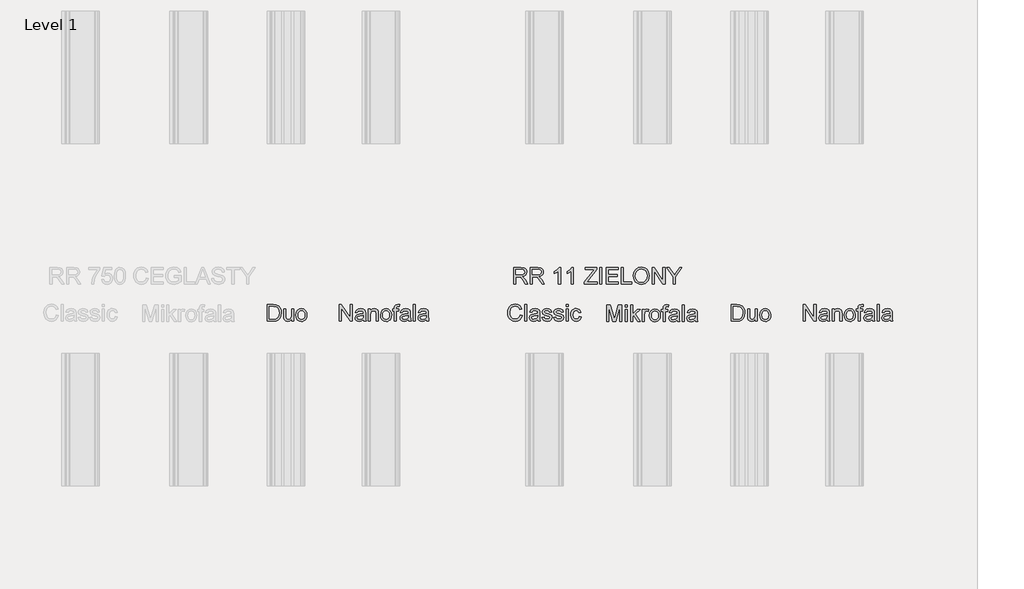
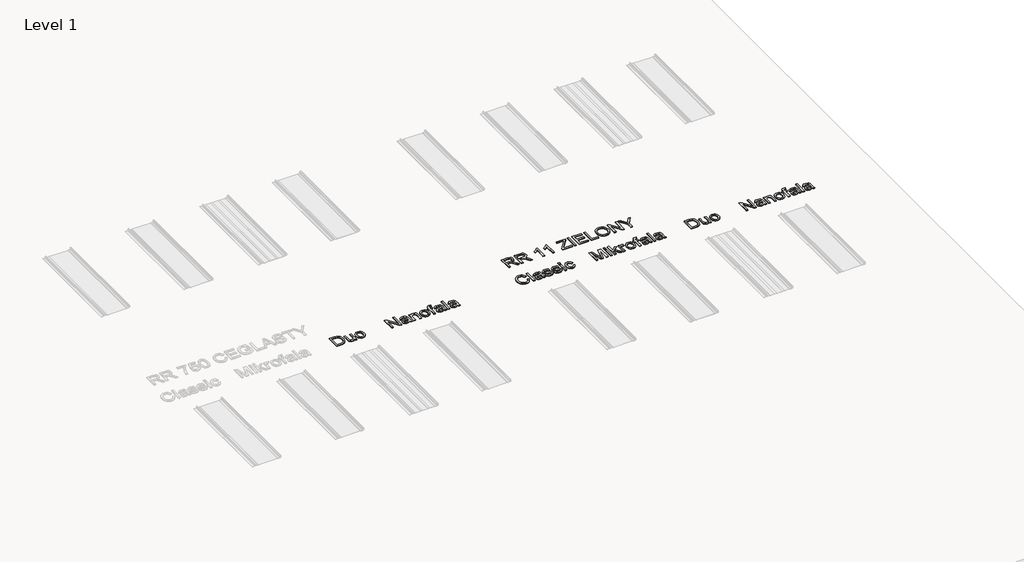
# One storey, part 16 of 24: 7 proxies.
"""IFC4 building model written with IfcOpenShell, lengths in millimetres."""

from ifc_helpers import new_model, si_unit, frame, origin, place, context, project, spatial, polyline, outline, extrude, element, save

model = new_model("IFC4")

# Units and contexts
model_context = context("Model", 3, world=origin())
ifc_project = project(units=[si_unit("LENGTHUNIT", "METRE", prefix="MILLI")], contexts=[model_context])

# Site, building, storey
site = spatial("IfcSite", under=ifc_project)
building = spatial("IfcBuilding", under=site)
storey = spatial("IfcBuildingStorey", under=building, Name="Level 1", Elevation=0.0)

# Proxies
placement = place(None, origin())
element("IfcBuildingElementProxy", 1, Name="150", ObjectType="150", at=placement, inside=storey, context=model_context, shape_type="SweptSolid", body=[
    extrude(outline(polyline([(1632.4192925, -5072.1592468), (1632.4192925, -4921.4747816), (1684.4010184, -4921.4747816), (1711.2931923, -4923.6452853), (1733.4396884, -4934.4242278), (1743.8599459, -4945.902146), (1751.2819651, -4960.1759675), (1755.7241402, -4976.9697805), (1757.2048653, -4996.0076738), (1753.1949515, -5026.4131207), (1742.8942557, -5048.3572817), (1729.135469, -5062.0240978), (1711.1276454, -5069.5840728), (1686.902616, -5072.1592468), (1632.4192925, -5072.1592468)]), holes=[polyline([(1651.2548507, -5053.3236886), (1684.5849594, -5053.3236886), (1708.8283829, -5050.6013619), (1722.8078987, -5042.9126282), (1734.2674229, -5024.2058287), (1738.3693071, -4995.7133682), (1736.3597517, -4975.1855529), (1730.3310855, -4960.0288147), (1721.4237427, -4949.6177542), (1710.7781575, -4943.3269721), (1684.0699246, -4940.3103397), (1651.2548507, -4940.3103397), (1651.2548507, -5053.3236886)])]), frame((0.0, 0.0, 600.0), z_axis=(0.0, 0.0, 1.0), x_axis=(1.0, 0.0, 0.0)), (0.0, 0.0, 1.0), 10.0),
    extrude(outline(polyline([(1851.382656, -5072.1592468), (1851.382656, -5053.1397476), (1836.630588, -5069.1702056), (1817.3903597, -5074.5136916), (1799.6768416, -5070.7612952), (1787.4631594, -5061.3435161), (1781.8529589, -5047.4743649), (1780.749313, -5029.9631819), (1780.749313, -4961.5003426), (1799.5848711, -4961.5003426), (1799.5848711, -5021.0972259), (1800.7253053, -5040.300666), (1808.1749157, -5051.5762492), (1822.2096138, -5055.6781334), (1837.9365691, -5051.4842787), (1848.3292355, -5040.0615427), (1851.382656, -5019.0738749), (1851.382656, -4961.5003426), (1870.2182142, -4961.5003426), (1870.2182142, -5072.1592468), (1851.382656, -5072.1592468)])), frame((0.0, 0.0, 600.0), z_axis=(0.0, 0.0, 1.0), x_axis=(1.0, 0.0, 0.0)), (0.0, 0.0, 1.0), 10.0),
    extrude(outline(polyline([(1891.4082171, -5016.8297947), (1895.4825102, -4990.149153), (1907.7053895, -4971.3963683), (1922.8069454, -4962.2085155), (1940.8883455, -4959.1458979), (1960.6757983, -4962.8753016), (1976.4809285, -4974.0635128), (1986.8414052, -4991.8276146), (1990.2948974, -5015.2846903), (1988.7681871, -5034.3133865), (1984.1880563, -5048.7987401), (1976.6878621, -5059.6466604), (1966.4009618, -5067.7630569), (1954.1826811, -5072.8260329), (1940.8883455, -5074.5136916), (1920.8617693, -5070.7980834), (1905.0750332, -5059.651259), (1894.8249211, -5041.5146766), (1891.4082171, -5016.8297947)]), holes=[polyline([(1910.2437753, -5016.7930065), (1912.4234761, -5033.8397385), (1918.9625785, -5045.9844428), (1928.8034219, -5053.2547108), (1940.8883455, -5055.6781334), (1952.9180867, -5053.2409152), (1962.740536, -5045.9292605), (1969.2796384, -5033.6236078), (1971.4593393, -5016.2043953), (1969.2658429, -4999.6543041), (1962.6853537, -4987.6751466), (1952.8491088, -4980.4048787), (1940.8883455, -4977.981456), (1928.8034219, -4980.3956816), (1918.9625785, -4987.6383584), (1912.4234761, -4999.7554716), (1910.2437753, -5016.7930065)])]), frame((0.0, 0.0, 600.0), z_axis=(0.0, 0.0, 1.0), x_axis=(1.0, 0.0, 0.0)), (0.0, 0.0, 1.0), 10.0),
])
element("IfcBuildingElementProxy", 2, Name="150", ObjectType="150", at=placement, inside=storey, context=model_context, shape_type="SweptSolid", body=[
    extrude(outline(polyline([(3920.9914008, -5017.1818641), (3939.8269589, -5022.0379064), (3931.1357468, -5043.986666), (3917.4965218, -5060.0217224), (3899.5806686, -5069.8303761), (3878.0595719, -5073.0999274), (3856.2119799, -5070.6259209), (3838.8617453, -5063.2039017), (3825.5628112, -5051.091387), (3815.8691206, -5034.5458943), (3809.950819, -5015.0941338), (3807.9780518, -4994.2628158), (3810.2083364, -4972.2910636), (3816.8991902, -4953.3175497), (3827.7011253, -4937.9446809), (3842.2646538, -4926.7748638), (3859.5367135, -4919.9736454), (3878.4642421, -4917.7065726), (3899.1162176, -4920.6404315), (3916.1905407, -4929.4420082), (3929.1537825, -4943.5686769), (3937.4725141, -4962.4778114), (3918.636956, -4966.9659718), (3912.1070506, -4953.2301778), (3903.1859122, -4943.8078002), (3891.7631762, -4938.3585481), (3877.7284781, -4936.5421308), (3861.5508674, -4938.5562847), (3848.2611303, -4944.5987464), (3838.1765651, -4954.0349196), (3831.61447, -4966.2302078), (3826.81361, -4994.2260276), (3828.2345542, -5011.626846), (3832.4973868, -5026.6732196), (3839.7630562, -5038.7903328), (3850.1925108, -5047.40337), (3862.6959001, -5052.5491194), (3876.1833737, -5054.2643692), (3891.9057305, -5051.9283185), (3905.0069281, -5044.9201665), (3914.8983552, -5033.3134896), (3920.9914008, -5017.1818641)])), frame((0.0, 0.0, 600.0), z_axis=(0.0, 0.0, 1.0), x_axis=(1.0, 0.0, 0.0)), (0.0, 0.0, 1.0), 10.0),
    extrude(outline(polyline([(3963.3714066, -5070.7454826), (3963.3714066, -4920.0610174), (3982.2069648, -4920.0610174), (3982.2069648, -5070.7454826), (3963.3714066, -5070.7454826)])), frame((0.0, 0.0, 600.0), z_axis=(0.0, 0.0, 1.0), x_axis=(1.0, 0.0, 0.0)), (0.0, 0.0, 1.0), 10.0),
    extrude(outline(polyline([(4081.0936451, -5056.618814), (4062.828304, -5069.3843192), (4042.6499766, -5073.0999274), (4026.9092257, -5070.8650442), (4015.2979502, -5064.1603949), (4008.1380469, -5053.9792607), (4005.7514125, -5041.314923), (4009.356656, -5026.4157022), (4018.8296174, -5015.5999715), (4032.0181869, -5009.419554), (4048.3153593, -5006.5868626), (4080.9832805, -5000.1121395), (4081.0936451, -4995.9182848), (4079.796861, -4987.5121812), (4075.9065089, -4982.0123454), (4067.2060997, -4977.9288552), (4055.084388, -4976.5676918), (4036.0281007, -4980.1913295), (4026.9414154, -4993.0488052), (4008.1058572, -4990.6943604), (4016.2544434, -4972.3002607), (4032.6619804, -4961.5213182), (4057.5124092, -4957.7321337), (4080.339487, -4961.0798598), (4093.2337509, -4969.4859634), (4099.0094982, -4982.2698628), (4099.9292032, -4998.7509761), (4099.9292032, -5022.1850592), (4100.8856964, -5054.9081627), (4104.6380928, -5070.7454826), (4085.8025346, -5070.7454826), (4081.0936451, -5056.618814)]), holes=[polyline([(4081.0936451, -5018.9476977), (4050.7065923, -5024.723445), (4034.5013904, -5027.7768656), (4027.1621446, -5032.7432725), (4024.5869706, -5039.9905478), (4030.197171, -5050.1808791), (4046.6598903, -5054.2643692), (4065.7161777, -5049.7578148), (4078.0034363, -5038.8501136), (4080.9832805, -5024.2819866), (4081.0936451, -5018.9476977)])]), frame((0.0, 0.0, 600.0), z_axis=(0.0, 0.0, 1.0), x_axis=(1.0, 0.0, 0.0)), (0.0, 0.0, 1.0), 10.0),
    extrude(outline(polyline([(4118.7647614, -5037.7832558), (4137.6003195, -5035.4288111), (4140.5709666, -5043.4854268), (4146.3191228, -5049.4083269), (4166.2951151, -5054.2643692), (4185.4985553, -5049.8129971), (4191.7525492, -5039.3651484), (4190.1798537, -5034.5642884), (4185.4617671, -5030.9038625), (4166.0743859, -5025.5327854), (4137.7106841, -5016.3173414), (4125.331455, -5005.5567931), (4121.1192061, -4990.3632666), (4124.5037205, -4976.3285685), (4133.7375586, -4965.6048084), (4145.7121175, -4960.0313961), (4161.9173194, -4957.7321337), (4184.8363677, -4961.4293477), (4199.4044947, -4971.435738), (4205.8792178, -4988.3399157), (4187.0436597, -4990.6943604), (4179.9619313, -4980.3016941), (4163.3888474, -4976.5676918), (4145.3626296, -4980.1361472), (4139.9547643, -4988.4502803), (4142.1988445, -4993.931722), (4149.2253906, -4998.0887885), (4165.4489866, -5002.0987023), (4193.0953185, -5010.9646584), (4205.9344001, -5021.0078368), (4210.5881074, -5037.3785856), (4205.1250597, -5055.4048034), (4189.3613162, -5068.4830083), (4166.0375977, -5073.0999274), (4147.0456897, -5070.8742413), (4133.1857356, -5064.1971831), (4123.9335034, -5053.1423291), (4118.7647614, -5037.7832558)])), frame((0.0, 0.0, 600.0), z_axis=(0.0, 0.0, 1.0), x_axis=(1.0, 0.0, 0.0)), (0.0, 0.0, 1.0), 10.0),
    extrude(outline(polyline([(4224.714776, -5037.7832558), (4243.5503341, -5035.4288111), (4246.5209812, -5043.4854268), (4252.2691374, -5049.4083269), (4272.2451298, -5054.2643692), (4291.4485699, -5049.8129971), (4297.7025638, -5039.3651484), (4296.1298683, -5034.5642884), (4291.4117817, -5030.9038625), (4272.0244006, -5025.5327854), (4243.6606987, -5016.3173414), (4231.2814696, -5005.5567931), (4227.0692207, -4990.3632666), (4230.4537351, -4976.3285685), (4239.6875732, -4965.6048084), (4251.6621321, -4960.0313961), (4267.867334, -4957.7321337), (4290.7863823, -4961.4293477), (4305.3545093, -4971.435738), (4311.8292324, -4988.3399157), (4292.9936743, -4990.6943604), (4285.9119459, -4980.3016941), (4269.338862, -4976.5676918), (4251.3126442, -4980.1361472), (4245.9047789, -4988.4502803), (4248.1488591, -4993.931722), (4255.1754052, -4998.0887885), (4271.3990012, -5002.0987023), (4299.0453331, -5010.9646584), (4311.8844147, -5021.0078368), (4316.538122, -5037.3785856), (4311.0750743, -5055.4048034), (4295.3113309, -5068.4830083), (4271.9876124, -5073.0999274), (4252.9957044, -5070.8742413), (4239.1357502, -5064.1971831), (4229.883518, -5053.1423291), (4224.714776, -5037.7832558)])), frame((0.0, 0.0, 600.0), z_axis=(0.0, 0.0, 1.0), x_axis=(1.0, 0.0, 0.0)), (0.0, 0.0, 1.0), 10.0),
    extrude(outline(polyline([(4337.7281249, -4938.8965755), (4337.7281249, -4920.0610174), (4356.5636831, -4920.0610174), (4356.5636831, -4938.8965755), (4337.7281249, -4938.8965755)])), frame((0.0, 0.0, 600.0), z_axis=(0.0, 0.0, 1.0), x_axis=(1.0, 0.0, 0.0)), (0.0, 0.0, 1.0), 10.0),
    extrude(outline(polyline([(4337.7281249, -5070.7454826), (4337.7281249, -4960.0865784), (4356.5636831, -4960.0865784), (4356.5636831, -5070.7454826), (4337.7281249, -5070.7454826)])), frame((0.0, 0.0, 600.0), z_axis=(0.0, 0.0, 1.0), x_axis=(1.0, 0.0, 0.0)), (0.0, 0.0, 1.0), 10.0),
    extrude(outline(polyline([(4455.4503634, -5030.7199215), (4474.2859215, -5033.0743663), (4469.034406, -5049.8267926), (4459.1659715, -5062.4865318), (4445.60952, -5070.4465785), (4429.2939535, -5073.0999274), (4409.2581803, -5069.3981148), (4393.5910059, -5058.2926771), (4383.4788495, -5040.2710578), (4380.1081307, -5015.8207007), (4381.547469, -4999.0590773), (4385.865484, -4984.532337), (4393.1311534, -4972.8014999), (4403.4134551, -4964.427586), (4415.7145094, -4959.4059968), (4429.0364361, -4957.7321337), (4444.9519309, -4960.0313961), (4457.6760494, -4966.9291836), (4466.8041214, -4978.0576139), (4471.9314767, -4993.0488052), (4453.0959186, -4995.40325), (4444.3587212, -4981.2949755), (4429.1835889, -4976.5676918), (4417.0112934, -4978.8945454), (4407.3497925, -4985.8751063), (4401.0452148, -4997.8864535), (4398.9436889, -5015.3056659), (4400.9992295, -5032.9594032), (4407.1658515, -5045.012137), (4416.6526084, -5051.9513112), (4428.6685541, -5054.2643692), (4438.4220255, -5052.8204324), (4446.4188604, -5048.4886219), (4452.2359944, -5041.1585731), (4455.4503634, -5030.7199215)])), frame((0.0, 0.0, 600.0), z_axis=(0.0, 0.0, 1.0), x_axis=(1.0, 0.0, 0.0)), (0.0, 0.0, 1.0), 10.0),
])
element("IfcBuildingElementProxy", 3, Name="150", ObjectType="150", at=placement, inside=storey, context=model_context, shape_type="SweptSolid", body=[
    extrude(outline(polyline([(4704.3345041, -5075.281387), (4704.3345041, -4924.5969218), (4736.6345432, -4924.5969218), (4767.5366308, -5030.8044538), (4773.7906247, -5052.9877381), (4780.5228653, -5028.9650438), (4810.8363417, -4924.5969218), (4843.2467454, -4924.5969218), (4843.2467454, -5075.281387), (4824.4111873, -5075.281387), (4824.4111873, -4943.4324799), (4786.55613, -5075.281387), (4761.0619077, -5075.281387), (4723.1700622, -4943.4324799), (4723.1700622, -5075.281387), (4704.3345041, -5075.281387)])), frame((0.0, 0.0, 600.0), z_axis=(0.0, 0.0, 1.0), x_axis=(1.0, 0.0, 0.0)), (0.0, 0.0, 1.0), 10.0),
    extrude(outline(polyline([(4873.8545274, -4943.4324799), (4873.8545274, -4924.5969218), (4892.6900856, -4924.5969218), (4892.6900856, -4943.4324799), (4873.8545274, -4943.4324799)])), frame((0.0, 0.0, 600.0), z_axis=(0.0, 0.0, 1.0), x_axis=(1.0, 0.0, 0.0)), (0.0, 0.0, 1.0), 10.0),
    extrude(outline(polyline([(4873.8545274, -5075.281387), (4873.8545274, -4964.6224829), (4892.6900856, -4964.6224829), (4892.6900856, -5075.281387), (4873.8545274, -5075.281387)])), frame((0.0, 0.0, 600.0), z_axis=(0.0, 0.0, 1.0), x_axis=(1.0, 0.0, 0.0)), (0.0, 0.0, 1.0), 10.0),
    extrude(outline(polyline([(4920.9434228, -5075.281387), (4920.9434228, -4924.5969218), (4939.778981, -4924.5969218), (4939.778981, -5005.5677489), (4982.011834, -4964.6224829), (5008.0578793, -4964.6224829), (4965.2732032, -5006.0827837), (5010.412324, -5075.281387), (4988.4129807, -5075.281387), (4951.771934, -5019.1793827), (4939.778981, -5030.841242), (4939.778981, -5075.281387), (4920.9434228, -5075.281387)])), frame((0.0, 0.0, 600.0), z_axis=(0.0, 0.0, 1.0), x_axis=(1.0, 0.0, 0.0)), (0.0, 0.0, 1.0), 10.0),
    extrude(outline(polyline([(5026.8934374, -5075.281387), (5026.8934374, -4964.6224829), (5043.3745508, -4964.6224829), (5043.3745508, -4980.9932316), (5055.0731983, -4965.9100698), (5066.8454221, -4962.2680381), (5085.7545567, -4968.0805736), (5079.4637745, -4984.9663572), (5066.2200227, -4981.1035962), (5055.5698389, -4984.8192044), (5048.7824161, -4995.1199003), (5045.7289956, -5017.1192436), (5045.7289956, -5075.281387), (5026.8934374, -5075.281387)])), frame((0.0, 0.0, 600.0), z_axis=(0.0, 0.0, 1.0), x_axis=(1.0, 0.0, 0.0)), (0.0, 0.0, 1.0), 10.0),
    extrude(outline(polyline([(5092.817891, -5019.9519349), (5096.8921841, -4993.2712932), (5109.1150633, -4974.5185085), (5124.2166192, -4965.3306557), (5142.2980193, -4962.2680381), (5162.0854721, -4965.9974418), (5177.8906023, -4977.185653), (5188.251079, -4994.9497548), (5191.7045713, -5018.4068306), (5190.177861, -5037.4355268), (5185.5977301, -5051.9208803), (5178.097536, -5062.7688007), (5167.8106357, -5070.8851972), (5155.5923549, -5075.9481731), (5142.2980193, -5077.6358318), (5122.2714432, -5073.9202236), (5106.4847071, -5062.7733992), (5096.234595, -5044.6368168), (5092.817891, -5019.9519349)]), holes=[polyline([(5111.6534491, -5019.9151467), (5113.8331499, -5036.9618787), (5120.3722524, -5049.1065831), (5130.2130958, -5056.376851), (5142.2980193, -5058.8002736), (5154.3277606, -5056.3630554), (5164.1502098, -5049.0514008), (5170.6893123, -5036.745748), (5172.8690131, -5019.3265355), (5170.6755167, -5002.7764443), (5164.0950275, -4990.7972868), (5154.2587827, -4983.5270189), (5142.2980193, -4981.1035962), (5130.2130958, -4983.5178218), (5120.3722524, -4990.7604986), (5113.8331499, -5002.8776118), (5111.6534491, -5019.9151467)])]), frame((0.0, 0.0, 600.0), z_axis=(0.0, 0.0, 1.0), x_axis=(1.0, 0.0, 0.0)), (0.0, 0.0, 1.0), 10.0),
    extrude(outline(polyline([(5217.6034637, -5075.281387), (5217.6034637, -4983.458041), (5201.1223503, -4983.458041), (5201.1223503, -4964.6224829), (5217.6034637, -4964.6224829), (5217.6034637, -4953.4756584), (5219.5900265, -4937.7670972), (5229.2285348, -4926.5466964), (5248.2112457, -4922.242477), (5265.3913349, -4924.3026162), (5262.6322199, -4941.960952), (5251.7797011, -4941.0780352), (5239.9155067, -4944.2050321), (5236.4390219, -4955.8668914), (5236.4390219, -4964.6224829), (5257.6290248, -4964.6224829), (5257.6290248, -4983.458041), (5236.4390219, -4983.458041), (5236.4390219, -5075.281387), (5217.6034637, -5075.281387)])), frame((0.0, 0.0, 600.0), z_axis=(0.0, 0.0, 1.0), x_axis=(1.0, 0.0, 0.0)), (0.0, 0.0, 1.0), 10.0),
    extrude(outline(polyline([(5344.7434813, -5061.1547184), (5326.4781402, -5073.9202236), (5306.2998128, -5077.6358318), (5290.5590619, -5075.4009487), (5278.9477864, -5068.6962993), (5271.7878831, -5058.5151651), (5269.4012486, -5045.8508274), (5273.0064922, -5030.9516066), (5282.4794536, -5020.1358759), (5295.6680231, -5013.9554584), (5311.9651955, -5011.1227671), (5344.6331167, -5004.6480439), (5344.7434813, -5000.4541892), (5343.4466972, -4992.0480856), (5339.5563451, -4986.5482498), (5330.8559359, -4982.4647596), (5318.7342242, -4981.1035962), (5299.6779368, -4984.7272339), (5290.5912516, -4997.5847096), (5271.7556934, -4995.2302649), (5279.9042796, -4976.8361651), (5296.3118166, -4966.0572226), (5321.1622454, -4962.2680381), (5343.9893232, -4965.6157643), (5356.8835871, -4974.0218678), (5362.6593344, -4986.8057672), (5363.5790394, -5003.2868806), (5363.5790394, -5026.7209636), (5364.5355326, -5059.4440671), (5368.2879289, -5075.281387), (5349.4523708, -5075.281387), (5344.7434813, -5061.1547184)]), holes=[polyline([(5344.7434813, -5023.4836021), (5314.3564285, -5029.2593494), (5298.1512266, -5032.31277), (5290.8119808, -5037.2791769), (5288.2368068, -5044.5264522), (5293.8470072, -5054.7167835), (5310.3097265, -5058.8002736), (5329.3660139, -5054.2937192), (5341.6532725, -5043.386018), (5344.6331167, -5028.817891), (5344.7434813, -5023.4836021)])]), frame((0.0, 0.0, 600.0), z_axis=(0.0, 0.0, 1.0), x_axis=(1.0, 0.0, 0.0)), (0.0, 0.0, 1.0), 10.0),
    extrude(outline(polyline([(5389.4779319, -5075.281387), (5389.4779319, -4924.5969218), (5408.31349, -4924.5969218), (5408.31349, -5075.281387), (5389.4779319, -5075.281387)])), frame((0.0, 0.0, 600.0), z_axis=(0.0, 0.0, 1.0), x_axis=(1.0, 0.0, 0.0)), (0.0, 0.0, 1.0), 10.0),
    extrude(outline(polyline([(5507.2001703, -5061.1547184), (5488.9348293, -5073.9202236), (5468.7565018, -5077.6358318), (5453.015751, -5075.4009487), (5441.4044755, -5068.6962993), (5434.2445722, -5058.5151651), (5431.8579377, -5045.8508274), (5435.4631813, -5030.9516066), (5444.9361426, -5020.1358759), (5458.1247122, -5013.9554584), (5474.4218846, -5011.1227671), (5507.0898057, -5004.6480439), (5507.2001703, -5000.4541892), (5505.9033863, -4992.0480856), (5502.0130342, -4986.5482498), (5493.312625, -4982.4647596), (5481.1909133, -4981.1035962), (5462.1346259, -4984.7272339), (5453.0479406, -4997.5847096), (5434.2123825, -4995.2302649), (5442.3609687, -4976.8361651), (5458.7685057, -4966.0572226), (5483.6189344, -4962.2680381), (5506.4460122, -4965.6157643), (5519.3402762, -4974.0218678), (5525.1160235, -4986.8057672), (5526.0357285, -5003.2868806), (5526.0357285, -5026.7209636), (5526.9922217, -5059.4440671), (5530.744618, -5075.281387), (5511.9090599, -5075.281387), (5507.2001703, -5061.1547184)]), holes=[polyline([(5507.2001703, -5023.4836021), (5476.8131175, -5029.2593494), (5460.6079156, -5032.31277), (5453.2686698, -5037.2791769), (5450.6934959, -5044.5264522), (5456.3036963, -5054.7167835), (5472.7664156, -5058.8002736), (5491.8227029, -5054.2937192), (5504.1099616, -5043.386018), (5507.0898057, -5028.817891), (5507.2001703, -5023.4836021)])]), frame((0.0, 0.0, 600.0), z_axis=(0.0, 0.0, 1.0), x_axis=(1.0, 0.0, 0.0)), (0.0, 0.0, 1.0), 10.0),
])
element("IfcBuildingElementProxy", 4, Name="150", ObjectType="150", at=placement, inside=storey, context=model_context, shape_type="SweptSolid", body=[
    extrude(outline(polyline([(5832.4192925, -5072.1592468), (5832.4192925, -4921.4747816), (5884.4010184, -4921.4747816), (5911.2931923, -4923.6452853), (5933.4396884, -4934.4242278), (5943.8599459, -4945.902146), (5951.2819651, -4960.1759675), (5955.7241402, -4976.9697805), (5957.2048653, -4996.0076738), (5953.1949515, -5026.4131207), (5942.8942557, -5048.3572817), (5929.135469, -5062.0240978), (5911.1276454, -5069.5840728), (5886.902616, -5072.1592468), (5832.4192925, -5072.1592468)]), holes=[polyline([(5851.2548507, -5053.3236886), (5884.5849594, -5053.3236886), (5908.8283829, -5050.6013619), (5922.8078987, -5042.9126282), (5934.2674229, -5024.2058287), (5938.3693071, -4995.7133682), (5936.3597517, -4975.1855529), (5930.3310855, -4960.0288147), (5921.4237427, -4949.6177542), (5910.7781575, -4943.3269721), (5884.0699246, -4940.3103397), (5851.2548507, -4940.3103397), (5851.2548507, -5053.3236886)])]), frame((0.0, 0.0, 600.0), z_axis=(0.0, 0.0, 1.0), x_axis=(1.0, 0.0, 0.0)), (0.0, 0.0, 1.0), 10.0),
    extrude(outline(polyline([(6051.382656, -5072.1592468), (6051.382656, -5053.1397476), (6036.630588, -5069.1702056), (6017.3903597, -5074.5136916), (5999.6768416, -5070.7612952), (5987.4631594, -5061.3435161), (5981.8529589, -5047.4743649), (5980.749313, -5029.9631819), (5980.749313, -4961.5003426), (5999.5848711, -4961.5003426), (5999.5848711, -5021.0972259), (6000.7253053, -5040.300666), (6008.1749157, -5051.5762492), (6022.2096138, -5055.6781334), (6037.9365691, -5051.4842787), (6048.3292355, -5040.0615427), (6051.382656, -5019.0738749), (6051.382656, -4961.5003426), (6070.2182142, -4961.5003426), (6070.2182142, -5072.1592468), (6051.382656, -5072.1592468)])), frame((0.0, 0.0, 600.0), z_axis=(0.0, 0.0, 1.0), x_axis=(1.0, 0.0, 0.0)), (0.0, 0.0, 1.0), 10.0),
    extrude(outline(polyline([(6091.4082171, -5016.8297947), (6095.4825102, -4990.149153), (6107.7053895, -4971.3963683), (6122.8069454, -4962.2085155), (6140.8883455, -4959.1458979), (6160.6757983, -4962.8753016), (6176.4809285, -4974.0635128), (6186.8414052, -4991.8276146), (6190.2948974, -5015.2846903), (6188.7681871, -5034.3133865), (6184.1880563, -5048.7987401), (6176.6878621, -5059.6466604), (6166.4009618, -5067.7630569), (6154.1826811, -5072.8260329), (6140.8883455, -5074.5136916), (6120.8617693, -5070.7980834), (6105.0750332, -5059.651259), (6094.8249211, -5041.5146766), (6091.4082171, -5016.8297947)]), holes=[polyline([(6110.2437753, -5016.7930065), (6112.4234761, -5033.8397385), (6118.9625785, -5045.9844428), (6128.8034219, -5053.2547108), (6140.8883455, -5055.6781334), (6152.9180867, -5053.2409152), (6162.740536, -5045.9292605), (6169.2796384, -5033.6236078), (6171.4593393, -5016.2043953), (6169.2658429, -4999.6543041), (6162.6853537, -4987.6751466), (6152.8491088, -4980.4048787), (6140.8883455, -4977.981456), (6128.8034219, -4980.3956816), (6118.9625785, -4987.6383584), (6112.4234761, -4999.7554716), (6110.2437753, -5016.7930065)])]), frame((0.0, 0.0, 600.0), z_axis=(0.0, 0.0, 1.0), x_axis=(1.0, 0.0, 0.0)), (0.0, 0.0, 1.0), 10.0),
])
element("IfcBuildingElementProxy", 5, Name="150", ObjectType="150", at=placement, inside=storey, context=model_context, shape_type="SweptSolid", body=[
    extrude(outline(polyline([(2283.2193428, -5072.1592468), (2283.2193428, -4921.4747816), (2303.3792761, -4921.4747816), (2382.1060231, -5040.852489), (2382.1060231, -4921.4747816), (2400.9415812, -4921.4747816), (2400.9415812, -5072.1592468), (2380.7816479, -5072.1592468), (2302.0549009, -4952.7447512), (2302.0549009, -5072.1592468), (2283.2193428, -5072.1592468)])), frame((0.0, 0.0, 600.0), z_axis=(0.0, 0.0, 1.0), x_axis=(1.0, 0.0, 0.0)), (0.0, 0.0, 1.0), 10.0),
    extrude(outline(polyline([(2502.1827063, -5058.0325782), (2483.9173653, -5070.7980834), (2463.7390378, -5074.5136916), (2447.998287, -5072.2788084), (2436.3870115, -5065.5741591), (2429.2271081, -5055.3930249), (2426.8404737, -5042.7286872), (2430.4457173, -5027.8294664), (2439.9186786, -5017.0137357), (2453.1072482, -5010.8333182), (2469.4044205, -5008.0006268), (2502.0723417, -5001.5259037), (2502.1827063, -4997.332049), (2500.8859223, -4988.9259454), (2496.9955702, -4983.4261096), (2488.295161, -4979.3426194), (2476.1734493, -4977.981456), (2457.1171619, -4981.6050937), (2448.0304766, -4994.4625694), (2429.1949185, -4992.1081246), (2437.3435047, -4973.7140249), (2453.7510417, -4962.9350824), (2478.6014704, -4959.1458979), (2501.4285482, -4962.493624), (2514.3228122, -4970.8997276), (2520.0985595, -4983.683627), (2521.0182645, -5000.1647403), (2521.0182645, -5023.5988234), (2521.9747577, -5056.3219269), (2525.727154, -5072.1592468), (2506.8915959, -5072.1592468), (2502.1827063, -5058.0325782)]), holes=[polyline([(2502.1827063, -5020.3614619), (2471.7956535, -5026.1372092), (2455.5904516, -5029.1906298), (2448.2512058, -5034.1570367), (2445.6760319, -5041.404312), (2451.2862323, -5051.5946433), (2467.7489516, -5055.6781334), (2486.8052389, -5051.171579), (2499.0924976, -5040.2638778), (2502.0723417, -5025.6957508), (2502.1827063, -5020.3614619)])]), frame((0.0, 0.0, 600.0), z_axis=(0.0, 0.0, 1.0), x_axis=(1.0, 0.0, 0.0)), (0.0, 0.0, 1.0), 10.0),
    extrude(outline(polyline([(2546.9171569, -5072.1592468), (2546.9171569, -4961.5003426), (2565.7527151, -4961.5003426), (2565.7527151, -4976.9513864), (2580.1552952, -4963.59727), (2599.8185878, -4959.1458979), (2617.6056823, -4962.7327473), (2629.7457881, -4972.1505264), (2635.3927768, -4986.0012835), (2636.3860582, -5004.2114423), (2636.3860582, -5072.1592468), (2617.5505, -5072.1592468), (2617.5505, -5006.749828), (2615.3799962, -4990.0847737), (2607.7096566, -4981.2739999), (2594.7786045, -4977.981456), (2583.7467432, -4979.8300631), (2574.3427597, -4985.3758841), (2567.9002262, -4996.0904472), (2565.7527151, -5013.4452804), (2565.7527151, -5072.1592468), (2546.9171569, -5072.1592468)])), frame((0.0, 0.0, 600.0), z_axis=(0.0, 0.0, 1.0), x_axis=(1.0, 0.0, 0.0)), (0.0, 0.0, 1.0), 10.0),
    extrude(outline(polyline([(2657.5760611, -5016.8297947), (2661.6503542, -4990.149153), (2673.8732335, -4971.3963683), (2688.9747894, -4962.2085155), (2707.0561894, -4959.1458979), (2726.8436422, -4962.8753016), (2742.6487725, -4974.0635128), (2753.0092492, -4991.8276146), (2756.4627414, -5015.2846903), (2754.9360311, -5034.3133865), (2750.3559003, -5048.7987401), (2742.8557061, -5059.6466604), (2732.5688058, -5067.7630569), (2720.350525, -5072.8260329), (2707.0561894, -5074.5136916), (2687.0296133, -5070.7980834), (2671.2428772, -5059.651259), (2660.9927651, -5041.5146766), (2657.5760611, -5016.8297947)]), holes=[polyline([(2676.4116192, -5016.7930065), (2678.5913201, -5033.8397385), (2685.1304225, -5045.9844428), (2694.9712659, -5053.2547108), (2707.0561894, -5055.6781334), (2719.0859307, -5053.2409152), (2728.9083799, -5045.9292605), (2735.4474824, -5033.6236078), (2737.6271832, -5016.2043953), (2735.4336868, -4999.6543041), (2728.8531976, -4987.6751466), (2719.0169528, -4980.4048787), (2707.0561894, -4977.981456), (2694.9712659, -4980.3956816), (2685.1304225, -4987.6383584), (2678.5913201, -4999.7554716), (2676.4116192, -5016.7930065)])]), frame((0.0, 0.0, 600.0), z_axis=(0.0, 0.0, 1.0), x_axis=(1.0, 0.0, 0.0)), (0.0, 0.0, 1.0), 10.0),
    extrude(outline(polyline([(2782.3616338, -5072.1592468), (2782.3616338, -4980.3359008), (2765.8805205, -4980.3359008), (2765.8805205, -4961.5003426), (2782.3616338, -4961.5003426), (2782.3616338, -4950.3535182), (2784.3481966, -4934.644957), (2793.9867049, -4923.4245561), (2812.9694158, -4919.1203368), (2830.149505, -4921.180476), (2827.3903901, -4938.8388117), (2816.5378712, -4937.955895), (2804.6736769, -4941.0828919), (2801.197192, -4952.7447512), (2801.197192, -4961.5003426), (2822.3871949, -4961.5003426), (2822.3871949, -4980.3359008), (2801.197192, -4980.3359008), (2801.197192, -5072.1592468), (2782.3616338, -5072.1592468)])), frame((0.0, 0.0, 600.0), z_axis=(0.0, 0.0, 1.0), x_axis=(1.0, 0.0, 0.0)), (0.0, 0.0, 1.0), 10.0),
    extrude(outline(polyline([(2909.5016514, -5058.0325782), (2891.2363103, -5070.7980834), (2871.0579829, -5074.5136916), (2855.317232, -5072.2788084), (2843.7059565, -5065.5741591), (2836.5460532, -5055.3930249), (2834.1594188, -5042.7286872), (2837.7646623, -5027.8294664), (2847.2376237, -5017.0137357), (2860.4261932, -5010.8333182), (2876.7233656, -5008.0006268), (2909.3912868, -5001.5259037), (2909.5016514, -4997.332049), (2908.2048673, -4988.9259454), (2904.3145152, -4983.4261096), (2895.6141061, -4979.3426194), (2883.4923943, -4977.981456), (2864.436107, -4981.6050937), (2855.3494217, -4994.4625694), (2836.5138635, -4992.1081246), (2844.6624497, -4973.7140249), (2861.0699867, -4962.9350824), (2885.9204155, -4959.1458979), (2908.7474933, -4962.493624), (2921.6417572, -4970.8997276), (2927.4175045, -4983.683627), (2928.3372095, -5000.1647403), (2928.3372095, -5023.5988234), (2929.2937027, -5056.3219269), (2933.0460991, -5072.1592468), (2914.2105409, -5072.1592468), (2909.5016514, -5058.0325782)]), holes=[polyline([(2909.5016514, -5020.3614619), (2879.1145986, -5026.1372092), (2862.9093967, -5029.1906298), (2855.5701509, -5034.1570367), (2852.9949769, -5041.404312), (2858.6051773, -5051.5946433), (2875.0678966, -5055.6781334), (2894.124184, -5051.171579), (2906.4114426, -5040.2638778), (2909.3912868, -5025.6957508), (2909.5016514, -5020.3614619)])]), frame((0.0, 0.0, 600.0), z_axis=(0.0, 0.0, 1.0), x_axis=(1.0, 0.0, 0.0)), (0.0, 0.0, 1.0), 10.0),
    extrude(outline(polyline([(2954.236102, -5072.1592468), (2954.236102, -4921.4747816), (2973.0716601, -4921.4747816), (2973.0716601, -5072.1592468), (2954.236102, -5072.1592468)])), frame((0.0, 0.0, 600.0), z_axis=(0.0, 0.0, 1.0), x_axis=(1.0, 0.0, 0.0)), (0.0, 0.0, 1.0), 10.0),
    extrude(outline(polyline([(3071.9583404, -5058.0325782), (3053.6929994, -5070.7980834), (3033.514672, -5074.5136916), (3017.7739211, -5072.2788084), (3006.1626456, -5065.5741591), (2999.0027423, -5055.3930249), (2996.6161078, -5042.7286872), (3000.2213514, -5027.8294664), (3009.6943128, -5017.0137357), (3022.8828823, -5010.8333182), (3039.1800547, -5008.0006268), (3071.8479758, -5001.5259037), (3071.9583404, -4997.332049), (3070.6615564, -4988.9259454), (3066.7712043, -4983.4261096), (3058.0707951, -4979.3426194), (3045.9490834, -4977.981456), (3026.892796, -4981.6050937), (3017.8061108, -4994.4625694), (2998.9705526, -4992.1081246), (3007.1191388, -4973.7140249), (3023.5266758, -4962.9350824), (3048.3771046, -4959.1458979), (3071.2041824, -4962.493624), (3084.0984463, -4970.8997276), (3089.8741936, -4983.683627), (3090.7938986, -5000.1647403), (3090.7938986, -5023.5988234), (3091.7503918, -5056.3219269), (3095.5027881, -5072.1592468), (3076.66723, -5072.1592468), (3071.9583404, -5058.0325782)]), holes=[polyline([(3071.9583404, -5020.3614619), (3041.5712876, -5026.1372092), (3025.3660858, -5029.1906298), (3018.02684, -5034.1570367), (3015.451666, -5041.404312), (3021.0618664, -5051.5946433), (3037.5245857, -5055.6781334), (3056.580873, -5051.171579), (3068.8681317, -5040.2638778), (3071.8479758, -5025.6957508), (3071.9583404, -5020.3614619)])]), frame((0.0, 0.0, 600.0), z_axis=(0.0, 0.0, 1.0), x_axis=(1.0, 0.0, 0.0)), (0.0, 0.0, 1.0), 10.0),
])
element("IfcBuildingElementProxy", 6, Name="150", ObjectType="150", at=placement, inside=storey, context=model_context, shape_type="SweptSolid", body=[
    extrude(outline(polyline([(6483.2193428, -5072.1592468), (6483.2193428, -4921.4747816), (6503.3792761, -4921.4747816), (6582.1060231, -5040.852489), (6582.1060231, -4921.4747816), (6600.9415812, -4921.4747816), (6600.9415812, -5072.1592468), (6580.7816479, -5072.1592468), (6502.0549009, -4952.7447512), (6502.0549009, -5072.1592468), (6483.2193428, -5072.1592468)])), frame((0.0, 0.0, 600.0), z_axis=(0.0, 0.0, 1.0), x_axis=(1.0, 0.0, 0.0)), (0.0, 0.0, 1.0), 10.0),
    extrude(outline(polyline([(6702.1827063, -5058.0325782), (6683.9173653, -5070.7980834), (6663.7390378, -5074.5136916), (6647.998287, -5072.2788084), (6636.3870115, -5065.5741591), (6629.2271081, -5055.3930249), (6626.8404737, -5042.7286872), (6630.4457173, -5027.8294664), (6639.9186786, -5017.0137357), (6653.1072482, -5010.8333182), (6669.4044205, -5008.0006268), (6702.0723417, -5001.5259037), (6702.1827063, -4997.332049), (6700.8859223, -4988.9259454), (6696.9955702, -4983.4261096), (6688.295161, -4979.3426194), (6676.1734493, -4977.981456), (6657.1171619, -4981.6050937), (6648.0304766, -4994.4625694), (6629.1949185, -4992.1081246), (6637.3435047, -4973.7140249), (6653.7510417, -4962.9350824), (6678.6014704, -4959.1458979), (6701.4285482, -4962.493624), (6714.3228122, -4970.8997276), (6720.0985595, -4983.683627), (6721.0182645, -5000.1647403), (6721.0182645, -5023.5988234), (6721.9747577, -5056.3219269), (6725.727154, -5072.1592468), (6706.8915959, -5072.1592468), (6702.1827063, -5058.0325782)]), holes=[polyline([(6702.1827063, -5020.3614619), (6671.7956535, -5026.1372092), (6655.5904516, -5029.1906298), (6648.2512058, -5034.1570367), (6645.6760319, -5041.404312), (6651.2862323, -5051.5946433), (6667.7489516, -5055.6781334), (6686.8052389, -5051.171579), (6699.0924976, -5040.2638778), (6702.0723417, -5025.6957508), (6702.1827063, -5020.3614619)])]), frame((0.0, 0.0, 600.0), z_axis=(0.0, 0.0, 1.0), x_axis=(1.0, 0.0, 0.0)), (0.0, 0.0, 1.0), 10.0),
    extrude(outline(polyline([(6746.9171569, -5072.1592468), (6746.9171569, -4961.5003426), (6765.7527151, -4961.5003426), (6765.7527151, -4976.9513864), (6780.1552952, -4963.59727), (6799.8185878, -4959.1458979), (6817.6056823, -4962.7327473), (6829.7457881, -4972.1505264), (6835.3927768, -4986.0012835), (6836.3860582, -5004.2114423), (6836.3860582, -5072.1592468), (6817.5505, -5072.1592468), (6817.5505, -5006.749828), (6815.3799962, -4990.0847737), (6807.7096566, -4981.2739999), (6794.7786045, -4977.981456), (6783.7467432, -4979.8300631), (6774.3427597, -4985.3758841), (6767.9002262, -4996.0904472), (6765.7527151, -5013.4452804), (6765.7527151, -5072.1592468), (6746.9171569, -5072.1592468)])), frame((0.0, 0.0, 600.0), z_axis=(0.0, 0.0, 1.0), x_axis=(1.0, 0.0, 0.0)), (0.0, 0.0, 1.0), 10.0),
    extrude(outline(polyline([(6857.5760611, -5016.8297947), (6861.6503542, -4990.149153), (6873.8732335, -4971.3963683), (6888.9747894, -4962.2085155), (6907.0561894, -4959.1458979), (6926.8436422, -4962.8753016), (6942.6487725, -4974.0635128), (6953.0092492, -4991.8276146), (6956.4627414, -5015.2846903), (6954.9360311, -5034.3133865), (6950.3559003, -5048.7987401), (6942.8557061, -5059.6466604), (6932.5688058, -5067.7630569), (6920.350525, -5072.8260329), (6907.0561894, -5074.5136916), (6887.0296133, -5070.7980834), (6871.2428772, -5059.651259), (6860.9927651, -5041.5146766), (6857.5760611, -5016.8297947)]), holes=[polyline([(6876.4116192, -5016.7930065), (6878.5913201, -5033.8397385), (6885.1304225, -5045.9844428), (6894.9712659, -5053.2547108), (6907.0561894, -5055.6781334), (6919.0859307, -5053.2409152), (6928.9083799, -5045.9292605), (6935.4474824, -5033.6236078), (6937.6271832, -5016.2043953), (6935.4336868, -4999.6543041), (6928.8531976, -4987.6751466), (6919.0169528, -4980.4048787), (6907.0561894, -4977.981456), (6894.9712659, -4980.3956816), (6885.1304225, -4987.6383584), (6878.5913201, -4999.7554716), (6876.4116192, -5016.7930065)])]), frame((0.0, 0.0, 600.0), z_axis=(0.0, 0.0, 1.0), x_axis=(1.0, 0.0, 0.0)), (0.0, 0.0, 1.0), 10.0),
    extrude(outline(polyline([(6982.3616338, -5072.1592468), (6982.3616338, -4980.3359008), (6965.8805205, -4980.3359008), (6965.8805205, -4961.5003426), (6982.3616338, -4961.5003426), (6982.3616338, -4950.3535182), (6984.3481966, -4934.644957), (6993.9867049, -4923.4245561), (7012.9694158, -4919.1203368), (7030.149505, -4921.180476), (7027.3903901, -4938.8388117), (7016.5378712, -4937.955895), (7004.6736769, -4941.0828919), (7001.197192, -4952.7447512), (7001.197192, -4961.5003426), (7022.3871949, -4961.5003426), (7022.3871949, -4980.3359008), (7001.197192, -4980.3359008), (7001.197192, -5072.1592468), (6982.3616338, -5072.1592468)])), frame((0.0, 0.0, 600.0), z_axis=(0.0, 0.0, 1.0), x_axis=(1.0, 0.0, 0.0)), (0.0, 0.0, 1.0), 10.0),
    extrude(outline(polyline([(7109.5016514, -5058.0325782), (7091.2363103, -5070.7980834), (7071.0579829, -5074.5136916), (7055.317232, -5072.2788084), (7043.7059565, -5065.5741591), (7036.5460532, -5055.3930249), (7034.1594188, -5042.7286872), (7037.7646623, -5027.8294664), (7047.2376237, -5017.0137357), (7060.4261932, -5010.8333182), (7076.7233656, -5008.0006268), (7109.3912868, -5001.5259037), (7109.5016514, -4997.332049), (7108.2048673, -4988.9259454), (7104.3145152, -4983.4261096), (7095.6141061, -4979.3426194), (7083.4923943, -4977.981456), (7064.436107, -4981.6050937), (7055.3494217, -4994.4625694), (7036.5138635, -4992.1081246), (7044.6624497, -4973.7140249), (7061.0699867, -4962.9350824), (7085.9204155, -4959.1458979), (7108.7474933, -4962.493624), (7121.6417572, -4970.8997276), (7127.4175045, -4983.683627), (7128.3372095, -5000.1647403), (7128.3372095, -5023.5988234), (7129.2937027, -5056.3219269), (7133.0460991, -5072.1592468), (7114.2105409, -5072.1592468), (7109.5016514, -5058.0325782)]), holes=[polyline([(7109.5016514, -5020.3614619), (7079.1145986, -5026.1372092), (7062.9093967, -5029.1906298), (7055.5701509, -5034.1570367), (7052.9949769, -5041.404312), (7058.6051773, -5051.5946433), (7075.0678966, -5055.6781334), (7094.124184, -5051.171579), (7106.4114426, -5040.2638778), (7109.3912868, -5025.6957508), (7109.5016514, -5020.3614619)])]), frame((0.0, 0.0, 600.0), z_axis=(0.0, 0.0, 1.0), x_axis=(1.0, 0.0, 0.0)), (0.0, 0.0, 1.0), 10.0),
    extrude(outline(polyline([(7154.236102, -5072.1592468), (7154.236102, -4921.4747816), (7173.0716601, -4921.4747816), (7173.0716601, -5072.1592468), (7154.236102, -5072.1592468)])), frame((0.0, 0.0, 600.0), z_axis=(0.0, 0.0, 1.0), x_axis=(1.0, 0.0, 0.0)), (0.0, 0.0, 1.0), 10.0),
    extrude(outline(polyline([(7271.9583404, -5058.0325782), (7253.6929994, -5070.7980834), (7233.514672, -5074.5136916), (7217.7739211, -5072.2788084), (7206.1626456, -5065.5741591), (7199.0027423, -5055.3930249), (7196.6161078, -5042.7286872), (7200.2213514, -5027.8294664), (7209.6943128, -5017.0137357), (7222.8828823, -5010.8333182), (7239.1800547, -5008.0006268), (7271.8479758, -5001.5259037), (7271.9583404, -4997.332049), (7270.6615564, -4988.9259454), (7266.7712043, -4983.4261096), (7258.0707951, -4979.3426194), (7245.9490834, -4977.981456), (7226.892796, -4981.6050937), (7217.8061108, -4994.4625694), (7198.9705526, -4992.1081246), (7207.1191388, -4973.7140249), (7223.5266758, -4962.9350824), (7248.3771046, -4959.1458979), (7271.2041824, -4962.493624), (7284.0984463, -4970.8997276), (7289.8741936, -4983.683627), (7290.7938986, -5000.1647403), (7290.7938986, -5023.5988234), (7291.7503918, -5056.3219269), (7295.5027881, -5072.1592468), (7276.66723, -5072.1592468), (7271.9583404, -5058.0325782)]), holes=[polyline([(7271.9583404, -5020.3614619), (7241.5712876, -5026.1372092), (7225.3660858, -5029.1906298), (7218.02684, -5034.1570367), (7215.451666, -5041.404312), (7221.0618664, -5051.5946433), (7237.5245857, -5055.6781334), (7256.580873, -5051.171579), (7268.8681317, -5040.2638778), (7271.8479758, -5025.6957508), (7271.9583404, -5020.3614619)])]), frame((0.0, 0.0, 600.0), z_axis=(0.0, 0.0, 1.0), x_axis=(1.0, 0.0, 0.0)), (0.0, 0.0, 1.0), 10.0),
])
element("IfcBuildingElementProxy", 7, Name="150 Blue", ObjectType="150 Blue", at=placement, inside=storey, context=model_context, shape_type="SweptSolid", body=[
    extrude(outline(polyline([(3863.5881658, -4735.6514112), (3863.5881658, -4584.966946), (3928.5193379, -4584.966946), (3958.6672675, -4589.032042), (3967.9470908, -4594.6606365), (3975.1483808, -4603.416228), (3979.7698984, -4614.2733454), (3981.3104043, -4626.2065176), (3978.7582229, -4641.0505561), (3971.1016789, -4653.3562089), (3958.1108459, -4662.3785148), (3939.5557978, -4667.3725129), (3950.2611639, -4675.4291286), (3965.5282667, -4694.8165097), (3990.6546069, -4735.6514112), (3968.7656282, -4735.6514112), (3949.1575179, -4704.4182298), (3934.9940611, -4683.7432617), (3925.0428531, -4673.9759947), (3916.0849265, -4670.3891452), (3905.1588313, -4669.7269577), (3882.423724, -4669.7269577), (3882.423724, -4735.6514112), (3863.5881658, -4735.6514112)]), holes=[polyline([(3882.423724, -4650.8913995), (3924.5830006, -4650.8913995), (3946.0857032, -4648.224255), (3958.2993855, -4639.6893927), (3962.4748461, -4626.9054934), (3960.4836848, -4617.7176406), (3954.5102009, -4610.3140154), (3944.2324977, -4605.4303819), (3929.3286783, -4603.8025041), (3882.423724, -4603.8025041), (3882.423724, -4650.8913995)])]), frame((0.0, 0.0, 600.0), z_axis=(0.0, 0.0, 1.0), x_axis=(1.0, 0.0, 0.0)), (0.0, 0.0, 1.0), 10.0),
    extrude(outline(polyline([(4014.272631, -4735.6514112), (4014.272631, -4584.966946), (4079.2038032, -4584.966946), (4109.3517327, -4589.032042), (4118.631556, -4594.6606365), (4125.8328461, -4603.416228), (4130.4543636, -4614.2733454), (4131.9948695, -4626.2065176), (4129.4426881, -4641.0505561), (4121.7861441, -4653.3562089), (4108.7953112, -4662.3785148), (4090.240263, -4667.3725129), (4100.9456291, -4675.4291286), (4116.2127319, -4694.8165097), (4141.3390722, -4735.6514112), (4119.4500934, -4735.6514112), (4099.8419831, -4704.4182298), (4085.6785263, -4683.7432617), (4075.7273183, -4673.9759947), (4066.7693917, -4670.3891452), (4055.8432965, -4669.7269577), (4033.1081892, -4669.7269577), (4033.1081892, -4735.6514112), (4014.272631, -4735.6514112)]), holes=[polyline([(4033.1081892, -4650.8913995), (4075.2674658, -4650.8913995), (4096.7701684, -4648.224255), (4108.9838507, -4639.6893927), (4113.1593113, -4626.9054934), (4111.16815, -4617.7176406), (4105.1946661, -4610.3140154), (4094.9169629, -4605.4303819), (4080.0131436, -4603.8025041), (4033.1081892, -4603.8025041), (4033.1081892, -4650.8913995)])]), frame((0.0, 0.0, 600.0), z_axis=(0.0, 0.0, 1.0), x_axis=(1.0, 0.0, 0.0)), (0.0, 0.0, 1.0), 10.0),
    extrude(outline(polyline([(4287.3882242, -4735.6514112), (4268.5526661, -4735.6514112), (4268.5526661, -4618.2234783), (4250.7103893, -4630.9338013), (4230.8815498, -4640.4435508), (4230.8815498, -4622.6380623), (4258.4910935, -4605.0165147), (4275.2481184, -4584.966946), (4287.3882242, -4584.966946), (4287.3882242, -4735.6514112)])), frame((0.0, 0.0, 600.0), z_axis=(0.0, 0.0, 1.0), x_axis=(1.0, 0.0, 0.0)), (0.0, 0.0, 1.0), 10.0),
    extrude(outline(polyline([(4402.7560179, -4735.6514112), (4383.9204598, -4735.6514112), (4383.9204598, -4618.2234783), (4366.078183, -4630.9338013), (4346.2493435, -4640.4435508), (4346.2493435, -4622.6380623), (4373.8588872, -4605.0165147), (4390.6159121, -4584.966946), (4402.7560179, -4584.966946), (4402.7560179, -4735.6514112)])), frame((0.0, 0.0, 600.0), z_axis=(0.0, 0.0, 1.0), x_axis=(1.0, 0.0, 0.0)), (0.0, 0.0, 1.0), 10.0),
    extrude(outline(polyline([(4501.6426982, -4735.6514112), (4501.6426982, -4716.1168772), (4578.677188, -4621.7183573), (4593.3188914, -4603.8025041), (4511.0604773, -4603.8025041), (4511.0604773, -4584.966946), (4617.0104919, -4584.966946), (4617.0104919, -4603.8025041), (4532.6919386, -4707.1037684), (4524.7456875, -4716.815853), (4619.3649367, -4716.815853), (4619.3649367, -4735.6514112), (4501.6426982, -4735.6514112)])), frame((0.0, 0.0, 600.0), z_axis=(0.0, 0.0, 1.0), x_axis=(1.0, 0.0, 0.0)), (0.0, 0.0, 1.0), 10.0),
    extrude(outline(polyline([(4642.9093844, -4735.6514112), (4642.9093844, -4584.966946), (4661.7449425, -4584.966946), (4661.7449425, -4735.6514112), (4642.9093844, -4735.6514112)])), frame((0.0, 0.0, 600.0), z_axis=(0.0, 0.0, 1.0), x_axis=(1.0, 0.0, 0.0)), (0.0, 0.0, 1.0), 10.0),
    extrude(outline(polyline([(4699.4160588, -4735.6514112), (4699.4160588, -4584.966946), (4807.7205182, -4584.966946), (4807.7205182, -4603.8025041), (4718.251617, -4603.8025041), (4718.251617, -4648.5369547), (4803.0116287, -4648.5369547), (4803.0116287, -4667.3725129), (4718.251617, -4667.3725129), (4718.251617, -4716.815853), (4810.074963, -4716.815853), (4810.074963, -4735.6514112), (4699.4160588, -4735.6514112)])), frame((0.0, 0.0, 600.0), z_axis=(0.0, 0.0, 1.0), x_axis=(1.0, 0.0, 0.0)), (0.0, 0.0, 1.0), 10.0),
    extrude(outline(polyline([(4838.3283002, -4735.6514112), (4838.3283002, -4584.966946), (4857.1638584, -4584.966946), (4857.1638584, -4716.815853), (4932.506091, -4716.815853), (4932.506091, -4735.6514112), (4838.3283002, -4735.6514112)])), frame((0.0, 0.0, 600.0), z_axis=(0.0, 0.0, 1.0), x_axis=(1.0, 0.0, 0.0)), (0.0, 0.0, 1.0), 10.0),
    extrude(outline(polyline([(4946.6327596, -4662.2957413), (4951.6543488, -4628.9748296), (4957.9313354, -4615.356298), (4966.7191165, -4603.7657159), (4989.7209383, -4587.9008049), (5018.5536897, -4582.6125012), (5038.3181498, -4585.0957047), (5056.040865, -4592.5453151), (5070.7561448, -4604.4371006), (5081.498299, -4620.2468293), (5088.0649926, -4639.2111462), (5090.2538905, -4660.566696), (5087.9500295, -4682.2073543), (5081.0384465, -4701.4383856), (5069.9008191, -4717.2757055), (5054.9188249, -4728.7352297), (5037.3478611, -4735.6881994), (5018.4433251, -4738.005856), (4998.3753622, -4735.4444776), (4980.5514796, -4727.7603424), (4965.8729879, -4715.6478277), (4955.2411983, -4699.8013108), (4948.7848693, -4681.5681594), (4946.6327596, -4662.2957413)]), holes=[polyline([(4965.4683178, -4662.4796823), (4969.2345097, -4686.0517212), (4980.5330855, -4704.0135596), (4997.5154381, -4715.3811133), (5018.3329605, -4719.1702978), (5039.4539855, -4715.3443251), (5056.4639293, -4703.8664068), (5067.6797316, -4685.3527454), (5071.4183324, -4660.4195432), (5069.8180457, -4643.7452917), (5065.0171856, -4629.3335146), (5057.1399124, -4617.5474952), (5046.3103862, -4608.750517), (5033.2459768, -4603.2736737), (5018.6640543, -4601.4480593), (4998.4029534, -4604.9659309), (4981.1768789, -4615.5195457), (4969.395458, -4634.295323), (4965.4683178, -4662.4796823)])]), frame((0.0, 0.0, 600.0), z_axis=(0.0, 0.0, 1.0), x_axis=(1.0, 0.0, 0.0)), (0.0, 0.0, 1.0), 10.0),
    extrude(outline(polyline([(5116.152783, -4735.6514112), (5116.152783, -4584.966946), (5136.3127163, -4584.966946), (5215.0394633, -4704.3446534), (5215.0394633, -4584.966946), (5233.8750214, -4584.966946), (5233.8750214, -4735.6514112), (5213.7150881, -4735.6514112), (5134.9883411, -4616.2369156), (5134.9883411, -4735.6514112), (5116.152783, -4735.6514112)])), frame((0.0, 0.0, 600.0), z_axis=(0.0, 0.0, 1.0), x_axis=(1.0, 0.0, 0.0)), (0.0, 0.0, 1.0), 10.0),
    extrude(outline(polyline([(5309.217254, -4735.6514112), (5309.217254, -4671.823885), (5250.3561348, -4584.966946), (5272.5394191, -4584.966946), (5303.9565415, -4631.3568656), (5320.0329847, -4655.048466), (5336.1830043, -4629.6646084), (5364.6938589, -4584.966946), (5386.9139314, -4584.966946), (5328.0528122, -4671.823885), (5328.0528122, -4735.6514112), (5309.217254, -4735.6514112)])), frame((0.0, 0.0, 600.0), z_axis=(0.0, 0.0, 1.0), x_axis=(1.0, 0.0, 0.0)), (0.0, 0.0, 1.0), 10.0),
])

save(model, "model.ifc")
